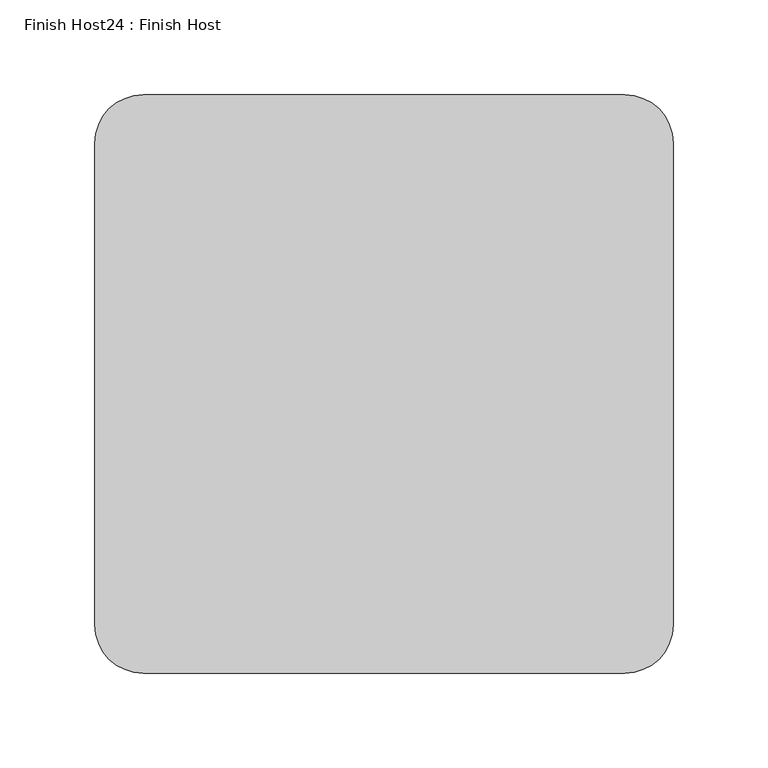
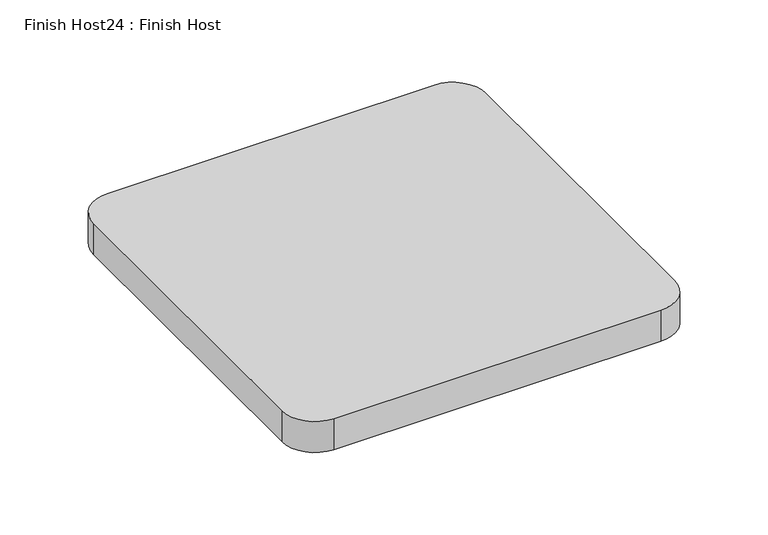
"""IFC4 building model written with IfcOpenShell, lengths in millimetres: proxy geometry, Finish Host24 : Finish Host."""

from ifc_helpers import new_model, si_unit, point, frame_2d, origin, origin_with_axes, place, context, project, spatial, polyline, circle_curve, trimmed, segment, composite_curve, outline, extrude, source, transform, mapped, element, save


def finish_host24_finish_host_937658bf(model_context):
    return source(origin(), model_context, "Body", "SweptSolid", [
        extrude(outline(composite_curve([segment(polyline([(3018.9649374, 804.1667263), (3018.9649374, 1058.1667263)]), True, "CONTINUOUS"), segment(trimmed(circle_curve(frame_2d((3044.3649374, 1058.1667263)), 25.4), [point((3018.9649374, 1058.1667263))], [point((3044.3649374, 1083.5667263))], False, "CARTESIAN"), True, "CONTINUOUS"), segment(polyline([(3044.3649374, 1083.5667263), (3298.3649374, 1083.5667263)]), True, "CONTINUOUS"), segment(trimmed(circle_curve(frame_2d((3298.3649374, 1058.1667263)), 25.4), [point((3298.3649374, 1083.5667263))], [point((3323.7649374, 1058.1667263))], False, "CARTESIAN"), True, "CONTINUOUS"), segment(polyline([(3323.7649374, 1058.1667263), (3323.7649374, 804.1667263)]), True, "CONTINUOUS"), segment(trimmed(circle_curve(frame_2d((3298.3649374, 804.1667263)), 25.4), [point((3323.7649374, 804.1667263))], [point((3298.3649374, 778.7667263))], False, "CARTESIAN"), True, "CONTINUOUS"), segment(polyline([(3298.3649374, 778.7667263), (3044.3649374, 778.7667263)]), True, "CONTINUOUS"), segment(trimmed(circle_curve(frame_2d((3044.3649374, 804.1667263)), 25.4), [point((3044.3649374, 778.7667263))], [point((3018.9649374, 804.1667263))], False, "CARTESIAN"), True, "CONTINUOUS")], self_intersect=False)), origin_with_axes(), (0.0, 0.0, 1.0), 25.4),
    ])


if __name__ == "__main__":
    model = new_model("IFC4")
    model_context = context("Model", 3, world=origin())
    ifc_project = project(units=[si_unit("LENGTHUNIT", "METRE", prefix="MILLI")], contexts=[model_context])
    site = spatial("IfcSite", under=ifc_project)
    building = spatial("IfcBuilding", under=site)
    placement = place(None, origin())
    finish_host24_finish_host_shape = finish_host24_finish_host_937658bf(model_context)
    element("IfcBuildingElementProxy", 1, Name="Finish Host24 : Finish Host", ObjectType="Finish Host24 : Finish Host", at=placement, inside=building, context=model_context, shape_type="MappedRepresentation", body=[
        mapped(finish_host24_finish_host_shape, transform((0.0, 0.0, 0.0), x_axis=(1.0, 0.0, 0.0), y_axis=(0.0, 1.0, 0.0), z_axis=(0.0, 0.0, 1.0))),
    ])
    save(model, "model.ifc")
